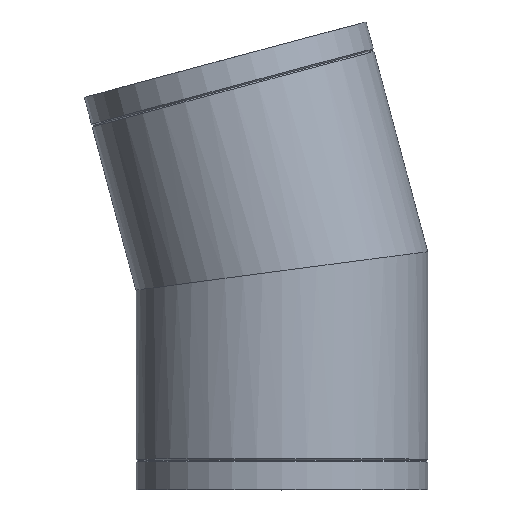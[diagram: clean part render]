
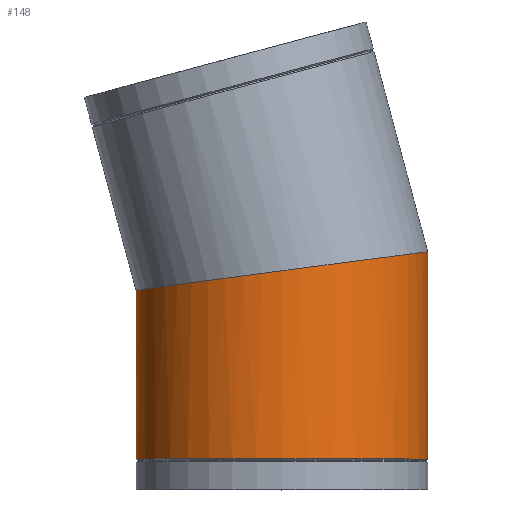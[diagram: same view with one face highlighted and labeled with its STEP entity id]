
A CAD part, top view. The second image highlights one B-rep face of the part: STEP entity #148.
In plain terms, the highlighted cylindrical face has radius 100 mm (diameter 200 mm), a full revolution.
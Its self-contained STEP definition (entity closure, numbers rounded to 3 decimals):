
#15=ELLIPSE($,#171,100.863,100.);
#16=ELLIPSE($,#172,100.863,100.);
#20=CYLINDRICAL_SURFACE($,#170,100.);
#30=FACE_BOUND($,#60,.T.);
#44=FACE_OUTER_BOUND($,#59,.T.);
#59=EDGE_LOOP($,(#121,#122));
#60=EDGE_LOOP($,(#123));
#79=CIRCLE($,#169,100.);
#89=VERTEX_POINT($,#256);
#90=VERTEX_POINT($,#259);
#91=VERTEX_POINT($,#260);
#103=EDGE_CURVE($,#89,#89,#79,.T.);
#104=EDGE_CURVE($,#90,#91,#15,.T.);
#105=EDGE_CURVE($,#91,#90,#16,.T.);
#121=ORIENTED_EDGE($,*,*,#104,.T.);
#122=ORIENTED_EDGE($,*,*,#105,.T.);
#123=ORIENTED_EDGE($,*,*,#103,.T.);
#148=ADVANCED_FACE($,(#44,#30),#20,.T.);
#169=AXIS2_PLACEMENT_3D($,#257,#208,#209);
#170=AXIS2_PLACEMENT_3D($,#258,#210,#211);
#171=AXIS2_PLACEMENT_3D($,#261,#212,#213);
#172=AXIS2_PLACEMENT_3D($,#262,#214,#215);
#208=DIRECTION('center_axis',(0.,1.,0.));
#209=DIRECTION('ref_axis',(1.,0.,0.));
#210=DIRECTION('center_axis',(0.,1.,0.));
#211=DIRECTION('ref_axis',(1.,0.,0.));
#212=DIRECTION('center_axis',(0.131,-0.991,0.));
#213=DIRECTION('ref_axis',(0.991,0.131,0.));
#214=DIRECTION('center_axis',(0.131,-0.991,0.));
#215=DIRECTION('ref_axis',(0.991,0.131,0.));
#256=CARTESIAN_POINT('',(100.,21.,0.));
#257=CARTESIAN_POINT('Origin',(0.,21.,0.));
#258=CARTESIAN_POINT('Origin',(0.,0.,0.));
#259=CARTESIAN_POINT('',(0.,150.,100.));
#260=CARTESIAN_POINT('',(0.,150.,-100.));
#261=CARTESIAN_POINT('Origin',(0.,150.,0.));
#262=CARTESIAN_POINT('Origin',(0.,150.,0.));
